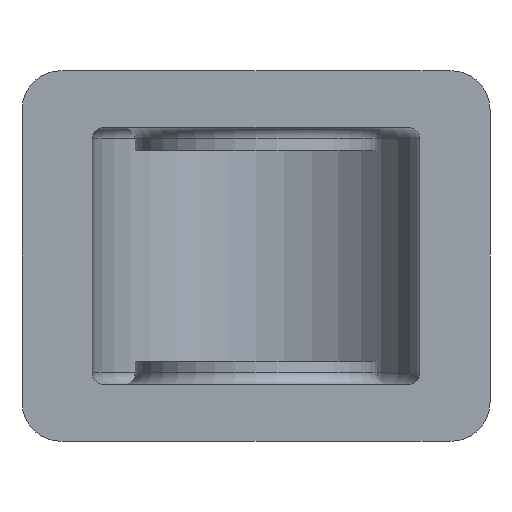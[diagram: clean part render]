
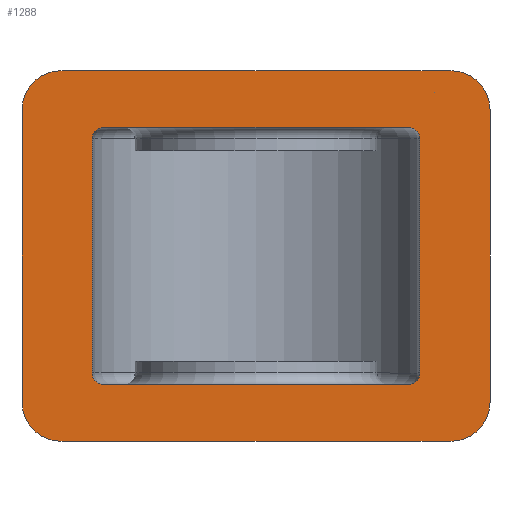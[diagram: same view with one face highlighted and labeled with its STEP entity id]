
A CAD part, front view. The second image highlights one B-rep face of the part: STEP entity #1288.
In plain terms, the highlighted planar face has unit normal (0, -1, 0).
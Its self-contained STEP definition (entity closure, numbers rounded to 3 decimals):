
#39=LINE('',#1965,#97);
#41=LINE('',#1979,#99);
#64=LINE('',#2280,#122);
#67=LINE('',#2288,#125);
#80=LINE('',#2351,#138);
#81=LINE('',#2354,#139);
#82=LINE('',#2360,#140);
#83=LINE('',#2364,#141);
#97=VECTOR('',#1524,78.);
#99=VECTOR('',#1538,78.);
#122=VECTOR('',#1759,75.);
#125=VECTOR('',#1768,100.);
#138=VECTOR('',#1847,75.);
#139=VECTOR('',#1850,100.);
#140=VECTOR('',#1855,60.);
#141=VECTOR('',#1860,60.);
#164=PLANE('',#1462);
#250=FACE_BOUND('',#453,.T.);
#325=FACE_OUTER_BOUND('',#452,.T.);
#452=EDGE_LOOP('',(#1100,#1101,#1102,#1103,#1104,#1105,#1106,#1107));
#453=EDGE_LOOP('',(#1108,#1109,#1110,#1111,#1112,#1113,#1114,#1115));
#549=CIRCLE('',#1425,10.);
#550=CIRCLE('',#1428,10.);
#566=CIRCLE('',#1461,10.);
#567=CIRCLE('',#1463,10.);
#568=CIRCLE('',#1464,3.);
#569=CIRCLE('',#1465,3.);
#570=CIRCLE('',#1466,3.);
#571=CIRCLE('',#1467,3.);
#590=VERTEX_POINT('',#1959);
#592=VERTEX_POINT('',#1963);
#597=VERTEX_POINT('',#1976);
#598=VERTEX_POINT('',#1978);
#663=VERTEX_POINT('',#2272);
#664=VERTEX_POINT('',#2274);
#665=VERTEX_POINT('',#2278);
#666=VERTEX_POINT('',#2282);
#667=VERTEX_POINT('',#2286);
#683=VERTEX_POINT('',#2346);
#684=VERTEX_POINT('',#2350);
#685=VERTEX_POINT('',#2352);
#686=VERTEX_POINT('',#2355);
#687=VERTEX_POINT('',#2357);
#688=VERTEX_POINT('',#2359);
#689=VERTEX_POINT('',#2362);
#706=EDGE_CURVE('',#592,#590,#39,.T.);
#711=EDGE_CURVE('',#597,#598,#41,.T.);
#798=EDGE_CURVE('',#663,#664,#549,.T.);
#801=EDGE_CURVE('',#663,#665,#64,.T.);
#803=EDGE_CURVE('',#666,#665,#550,.T.);
#805=EDGE_CURVE('',#666,#667,#67,.T.);
#833=EDGE_CURVE('',#683,#667,#566,.T.);
#834=EDGE_CURVE('',#683,#684,#80,.T.);
#835=EDGE_CURVE('',#685,#684,#567,.T.);
#836=EDGE_CURVE('',#685,#664,#81,.T.);
#837=EDGE_CURVE('',#598,#686,#568,.T.);
#838=EDGE_CURVE('',#687,#597,#569,.T.);
#839=EDGE_CURVE('',#688,#687,#82,.T.);
#840=EDGE_CURVE('',#590,#688,#570,.T.);
#841=EDGE_CURVE('',#689,#592,#571,.T.);
#842=EDGE_CURVE('',#686,#689,#83,.T.);
#1100=ORIENTED_EDGE('',*,*,#833,.F.);
#1101=ORIENTED_EDGE('',*,*,#834,.T.);
#1102=ORIENTED_EDGE('',*,*,#835,.F.);
#1103=ORIENTED_EDGE('',*,*,#836,.T.);
#1104=ORIENTED_EDGE('',*,*,#798,.F.);
#1105=ORIENTED_EDGE('',*,*,#801,.T.);
#1106=ORIENTED_EDGE('',*,*,#803,.F.);
#1107=ORIENTED_EDGE('',*,*,#805,.T.);
#1108=ORIENTED_EDGE('',*,*,#837,.F.);
#1109=ORIENTED_EDGE('',*,*,#711,.F.);
#1110=ORIENTED_EDGE('',*,*,#838,.F.);
#1111=ORIENTED_EDGE('',*,*,#839,.F.);
#1112=ORIENTED_EDGE('',*,*,#840,.F.);
#1113=ORIENTED_EDGE('',*,*,#706,.F.);
#1114=ORIENTED_EDGE('',*,*,#841,.F.);
#1115=ORIENTED_EDGE('',*,*,#842,.F.);
#1288=ADVANCED_FACE('',(#325,#250),#164,.T.);
#1425=AXIS2_PLACEMENT_3D('',#2275,#1753,#1754);
#1428=AXIS2_PLACEMENT_3D('',#2284,#1763,#1764);
#1461=AXIS2_PLACEMENT_3D('',#2348,#1843,#1844);
#1462=AXIS2_PLACEMENT_3D('',#2349,#1845,#1846);
#1463=AXIS2_PLACEMENT_3D('',#2353,#1848,#1849);
#1464=AXIS2_PLACEMENT_3D('',#2356,#1851,#1852);
#1465=AXIS2_PLACEMENT_3D('',#2358,#1853,#1854);
#1466=AXIS2_PLACEMENT_3D('',#2361,#1856,#1857);
#1467=AXIS2_PLACEMENT_3D('',#2363,#1858,#1859);
#1524=DIRECTION('',(1.,0.,0.));
#1538=DIRECTION('',(-1.,0.,0.));
#1753=DIRECTION('center_axis',(0.,1.,0.));
#1754=DIRECTION('ref_axis',(0.707,0.,-0.707));
#1759=DIRECTION('',(0.,0.,1.));
#1763=DIRECTION('center_axis',(0.,1.,0.));
#1764=DIRECTION('ref_axis',(0.707,0.,0.707));
#1768=DIRECTION('',(-1.,0.,0.));
#1843=DIRECTION('center_axis',(0.,1.,0.));
#1844=DIRECTION('ref_axis',(-0.707,0.,0.707));
#1845=DIRECTION('center_axis',(0.,-1.,0.));
#1846=DIRECTION('ref_axis',(0.,0.,-1.));
#1847=DIRECTION('',(0.,0.,-1.));
#1848=DIRECTION('center_axis',(0.,1.,0.));
#1849=DIRECTION('ref_axis',(-0.707,0.,-0.707));
#1850=DIRECTION('',(1.,0.,0.));
#1851=DIRECTION('center_axis',(0.,-1.,0.));
#1852=DIRECTION('ref_axis',(0.,0.,-1.));
#1853=DIRECTION('center_axis',(0.,-1.,0.));
#1854=DIRECTION('ref_axis',(-1.,0.,0.));
#1855=DIRECTION('',(0.,0.,1.));
#1856=DIRECTION('center_axis',(0.,-1.,0.));
#1857=DIRECTION('ref_axis',(0.,0.,1.));
#1858=DIRECTION('center_axis',(0.,-1.,0.));
#1859=DIRECTION('ref_axis',(1.,0.,0.));
#1860=DIRECTION('',(0.,0.,-1.));
#1959=CARTESIAN_POINT('',(39.,0.,-33.));
#1963=CARTESIAN_POINT('',(-39.,0.,-33.));
#1965=CARTESIAN_POINT('',(-19.5,0.,-33.));
#1976=CARTESIAN_POINT('',(39.,0.,33.));
#1978=CARTESIAN_POINT('',(-39.,0.,33.));
#1979=CARTESIAN_POINT('',(19.5,0.,33.));
#2272=CARTESIAN_POINT('',(60.,0.,-37.5));
#2274=CARTESIAN_POINT('',(50.,0.,-47.5));
#2275=CARTESIAN_POINT('Origin',(50.,0.,-37.5));
#2278=CARTESIAN_POINT('',(60.,0.,37.5));
#2280=CARTESIAN_POINT('',(60.,0.,-47.5));
#2282=CARTESIAN_POINT('',(50.,0.,47.5));
#2284=CARTESIAN_POINT('Origin',(50.,0.,37.5));
#2286=CARTESIAN_POINT('',(-50.,0.,47.5));
#2288=CARTESIAN_POINT('',(60.,0.,47.5));
#2346=CARTESIAN_POINT('',(-60.,0.,37.5));
#2348=CARTESIAN_POINT('Origin',(-50.,0.,37.5));
#2349=CARTESIAN_POINT('Origin',(0.,0.,0.));
#2350=CARTESIAN_POINT('',(-60.,0.,-37.5));
#2351=CARTESIAN_POINT('',(-60.,0.,47.5));
#2352=CARTESIAN_POINT('',(-50.,0.,-47.5));
#2353=CARTESIAN_POINT('Origin',(-50.,0.,-37.5));
#2354=CARTESIAN_POINT('',(-60.,0.,-47.5));
#2355=CARTESIAN_POINT('',(-42.,0.,30.));
#2356=CARTESIAN_POINT('Origin',(-39.,0.,30.));
#2357=CARTESIAN_POINT('',(42.,0.,30.));
#2358=CARTESIAN_POINT('Origin',(39.,0.,30.));
#2359=CARTESIAN_POINT('',(42.,0.,-30.));
#2360=CARTESIAN_POINT('',(42.,0.,-15.));
#2361=CARTESIAN_POINT('Origin',(39.,0.,-30.));
#2362=CARTESIAN_POINT('',(-42.,0.,-30.));
#2363=CARTESIAN_POINT('Origin',(-39.,0.,-30.));
#2364=CARTESIAN_POINT('',(-42.,0.,15.));
